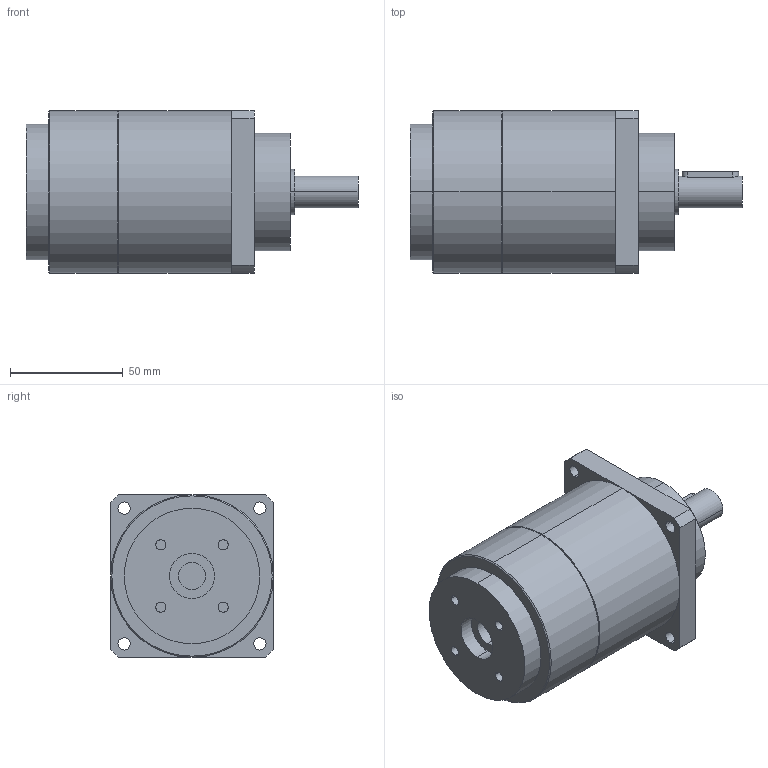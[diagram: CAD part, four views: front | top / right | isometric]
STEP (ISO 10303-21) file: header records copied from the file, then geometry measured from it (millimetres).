
FILE_DESCRIPTION(('CoCreate Modeling STEP Export'),'2;1');
FILE_NAME('GPT75_ig-9-12-16-20-25-28-35-40-50-70-100_14_B5T_12_P14.stp','2014-08-27T13:36:44',(''),(''),'CoCreate Modeling STEP processor for AP214 (Solid Model)','CoCreate Modeling 16.00C 25-Feb-2009 (C) Parametric Technology GmbH','');
FILE_SCHEMA(('AUTOMOTIVE_DESIGN { 1 0 10303 214 1 1 1 1 }'));
Length unit declared in the file: millimetre
Products named in the file (2): GPT75_ig-9-12-16-20-25-28-35-40-50-70-100_14_B5T_12_P14
Assembly tree (1 placements, depth 2):
  GPT75_ig-9-12-16-20-25-28-35-40-50-70-100_14_B5T_12_P14
    GPT75_ig-9-12-16-20-25-28-35-40-50-70-100_14_B5T_12_P14
Bounding box: 147 x 72 x 72 mm (x, y, z)
Volume: 441304.7 mm3; surface area: 40388.6 mm2
Topology: 1 solids, 1 shells, 69 faces, 165 edges, 110 vertices
Faces by surface type: cylinder 40, plane 25, cone 4
Entity records: 2146 total; most frequent: CARTESIAN_POINT 661, ORIENTED_EDGE 330, DIRECTION 260, EDGE_CURVE 165, VERTEX_POINT 110, AXIS2_PLACEMENT_3D 97, EDGE_LOOP 89, FACE_OUTER_BOUND 69
